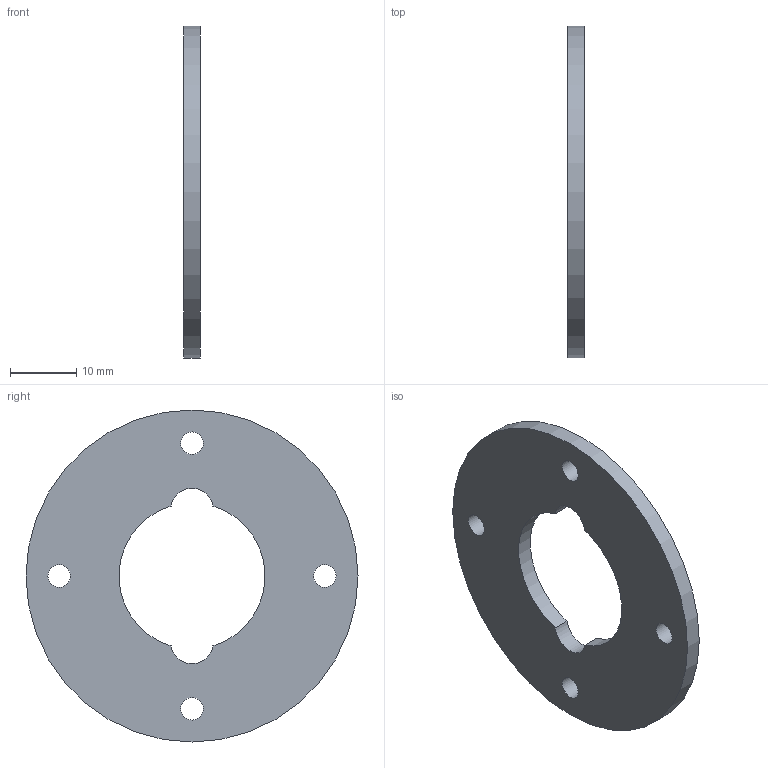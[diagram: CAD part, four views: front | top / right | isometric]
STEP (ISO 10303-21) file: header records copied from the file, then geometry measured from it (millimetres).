
FILE_DESCRIPTION(('Open CASCADE Model'),'2;1');
FILE_NAME('Open CASCADE Shape Model','2026-11-02T23:22:40',('Author'),( 'Open CASCADE'),'Open CASCADE STEP processor 7.9','Open CASCADE 7.9' ,'Unknown');
FILE_SCHEMA(('AUTOMOTIVE_DESIGN { 1 0 10303 214 1 1 1 1 }'));
Length unit declared in the file: millimetre
Products named in the file (1): Open CASCADE STEP translator 7.9 14
Bounding box: 2.5 x 50 x 50 mm (x, y, z)
Volume: 3814.1 mm3; surface area: 3736.4 mm2
Topology: 1 solids, 1 shells, 11 faces, 27 edges, 18 vertices
Faces by surface type: cylinder 9, plane 2
Full cylindrical faces by diameter (mm): 3.4 x4, 50 x1
Entity records: 721 total; most frequent: CARTESIAN_POINT 137, DIRECTION 112, ORIENTED_EDGE 54, PCURVE 54, DEFINITIONAL_REPRESENTATION 54, LINE 37, VECTOR 37, CIRCLE 33
